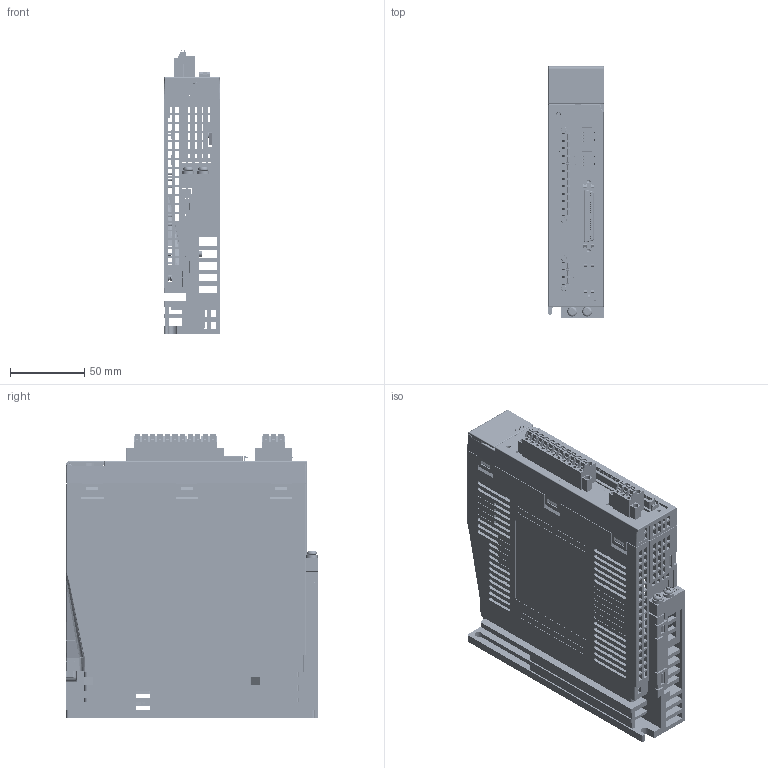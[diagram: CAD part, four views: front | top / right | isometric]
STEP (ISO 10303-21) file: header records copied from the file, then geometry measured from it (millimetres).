
FILE_DESCRIPTION (( 'STEP AP214' ), '1' );
FILE_NAME ('L7_400W.STEP', '2013-02-28T01:18:15', ( '8100cmt' ), ( '' ), 'SwSTEP 2.0', 'SolidWorks 2010', '' );
FILE_SCHEMA (( 'AUTOMOTIVE_DESIGN' ));
Length unit declared in the file: millimetre
Products named in the file (29): 12.5mF_2W_LR2512_GCT_ル遽; 400W heatsink_ル遽; L7_400W; 400W case (L)_ル遽; sl_smt_5_08_3_90lf_karton_1775242001_2_03_ル遽; 3.5KW MAIN LOADER ASS''Y_MOLEX_ル遽; 400W Power ass''y_ル遽; S- 7010TB; 400W case(R)_ル遽; sl_smt_5_08_11_90lf_karton_1775322001_2_03_ル遽; 400W_power pcb1_ル遽; MAIN LODER PCB_ル遽; sml-21; 955012882_ル遽; 529865071_ル遽; TM2002_CG_22P_ル遽; 10026WR-06_ル遽; A004-2B-7D_ル遽; WCN5-0022R1-A11_ル遽; PCB2 _ル遽; 10214-55x3xx_ル遽; M4_2_ル遽; M3_ル遽; 掘寡 -400W case(FRONT) _ル遽11_ル遽; M4  _ル遽; blf_5_08_03_180f_sn_or_bx_1013090000_2_03 _ル遽; blf_5_08_11_180f_sn_or_bx_1013180000_2_03 _ル遽; RH_50C_ル遽; 400W_case2_1 _ル遽_ル遽
Assembly tree (40 placements, depth 3):
  L7_400W
    3.5KW MAIN LOADER ASS''Y_MOLEX_ル遽
      S- 7010TB  x2
      sml-21  x4
      529865071_ル遽
      10026WR-06_ル遽
      955012882_ル遽  x2
      MAIN LODER PCB_ル遽
      PCB2 _ル遽
      10214-55x3xx_ル遽
      WCN5-0022R1-A11_ル遽
      TM2002_CG_22P_ル遽
      A004-2B-7D_ル遽
    M4  _ル遽  x4
    M3_ル遽  x2
    400W_case2_1 _ル遽_ル遽
    400W case(R)_ル遽
    400W heatsink_ル遽
    400W case (L)_ル遽
    掘寡 -400W case(FRONT) _ル遽11_ル遽
    blf_5_08_03_180f_sn_or_bx_1013090000_2_03 _ル遽
    blf_5_08_11_180f_sn_or_bx_1013180000_2_03 _ル遽
    RH_50C_ル遽
    M4_2_ル遽  x3
    400W Power ass''y_ル遽
      sl_smt_5_08_11_90lf_karton_1775322001_2_03_ル遽
      12.5mF_2W_LR2512_GCT_ル遽  x2
      400W_power pcb1_ル遽
      sl_smt_5_08_3_90lf_karton_1775242001_2_03_ル遽
Bounding box: 38 x 169 x 190.63 mm (x, y, z)
Volume: 339589.5 mm3; surface area: 320149.4 mm2
Topology: 62 solids, 64 shells, 11287 faces, 31340 edges, 20547 vertices
Faces by surface type: plane 8240, cylinder 1618, bspline 1242, sphere 90, cone 52, torus 45
Full cylindrical faces by diameter (mm): 0.4 x5, 0.45 x13, 0.635 x1, 0.7 x5, 1.5 x2, 1.8 x2, 2 x4, 2.013 x4, 2.2 x6, 2.3 x4, 2.489 x2, 2.5 x10, 2.6 x4, 3 x4, 3.3 x4, 3.5 x7, 3.8 x4, 3.9 x8, 4 x7, 4.75 x1, 5.1 x2, 5.3 x2, 5.5 x1, 5.8 x2, 6 x1, 6.6 x7, 7.8 x4, 8 x2
Entity records: 401243 total; most frequent: CARTESIAN_POINT 124249, ORIENTED_EDGE 56122, DIRECTION 46368, EDGE_CURVE 28123, LINE 22170, VECTOR 22170, VERTEX_POINT 18591, AXIS2_PLACEMENT_3D 12099
